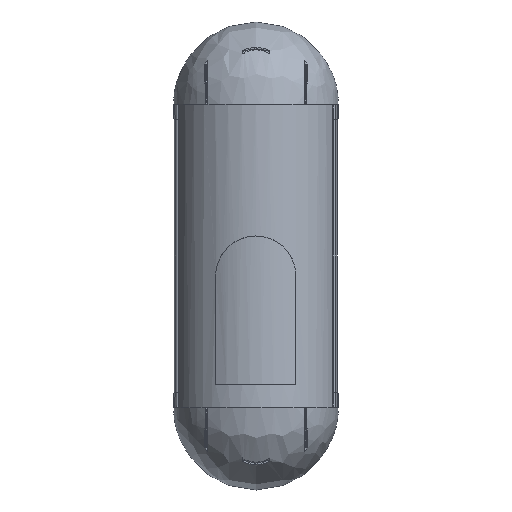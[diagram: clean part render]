
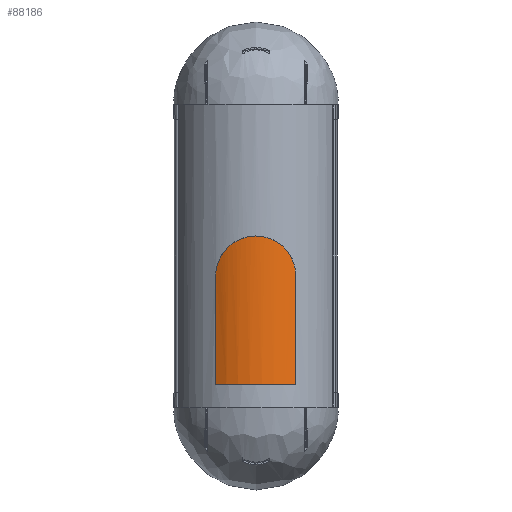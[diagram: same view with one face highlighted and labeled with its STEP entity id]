
A CAD part, front view. The second image highlights one B-rep face of the part: STEP entity #88186.
In plain terms, the highlighted cylindrical face has radius 33.953 mm (diameter 67.905 mm), a partial arc.
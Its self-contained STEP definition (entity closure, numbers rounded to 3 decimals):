
#98 = CARTESIAN_POINT ( 'NONE',  ( 13.767, -10.529, 1.942 ) ) ;
#1424 = CARTESIAN_POINT ( 'NONE',  ( 12.674, -10.994, 3.225 ) ) ;
#5175 = CARTESIAN_POINT ( 'NONE',  ( -17.599, -8.612, 69.625 ) ) ;
#5659 = CARTESIAN_POINT ( 'NONE',  ( -2.435, -13.403, 8.603 ) ) ;
#6501 = CARTESIAN_POINT ( 'NONE',  ( -17.599, -8.612, -8.75 ) ) ;
#6562 = EDGE_CURVE ( 'NONE', #46189, #81092, #17322, .T. ) ;
#6992 = CARTESIAN_POINT ( 'NONE',  ( -11.678, -11.441, 4.384 ) ) ;
#7288 = CARTESIAN_POINT ( 'NONE',  ( 16.258, -9.289, -2.503 ) ) ;
#7700 = DIRECTION ( 'NONE',  ( 0., 0., -1. ) ) ;
#8617 = CARTESIAN_POINT ( 'NONE',  ( 3.643, -13.275, 8.348 ) ) ;
#9197 = VECTOR ( 'NONE', #85427, 1000. ) ;
#12418 = CARTESIAN_POINT ( 'NONE',  ( -4.701, -13.168, 8.144 ) ) ;
#13273 = CARTESIAN_POINT ( 'NONE',  ( -17.481, -8.684, -6.411 ) ) ;
#14417 = LINE ( 'NONE', #5175, #77977 ) ;
#14889 = CARTESIAN_POINT ( 'NONE',  ( -0.083, 20.473, 69.625 ) ) ;
#14913 = CARTESIAN_POINT ( 'NONE',  ( 16.797, -8.987, -4.156 ) ) ;
#15025 = AXIS2_PLACEMENT_3D ( 'NONE', #41611, #21852, #15594 ) ;
#15341 = DIRECTION ( 'NONE',  ( 0., 0., -1. ) ) ;
#15365 = CARTESIAN_POINT ( 'NONE',  ( 13.051, -10.838, 2.81 ) ) ;
#15594 = DIRECTION ( 'NONE',  ( -1., 0., 0. ) ) ;
#15792 = CARTESIAN_POINT ( 'NONE',  ( 17.401, -8.632, -8.75 ) ) ;
#17322 = B_SPLINE_CURVE_WITH_KNOTS ( 'NONE', 3,
 ( #15792, #83554, #62904, #20757, #14913, #35946, #7288, #83113, #42266, #69678, #98, #15365, #1424, #27456, #56152, #49882, #70103, #43139, #70529, #22070, #49436, #22519, #27912, #21195, #8617, #82229, #77279, #41809 ),
 .UNSPECIFIED., .F., .F.,
 ( 4, 2, 2, 2, 2, 2, 2, 2, 2, 2, 2, 2, 2, 4 ),
 ( 0., 0.003, 0.005, 0.007, 0.01, 0.012, 0.014, 0.016, 0.017, 0.021, 0.023, 0.024, 0.024, 0.028 ),
 .UNSPECIFIED. ) ;
#19130 = CARTESIAN_POINT ( 'NONE',  ( -0.682, -13.479, 8.75 ) ) ;
#20757 = CARTESIAN_POINT ( 'NONE',  ( 16.94, -8.904, -4.716 ) ) ;
#20903 = CARTESIAN_POINT ( 'NONE',  ( -7.943, -12.575, 6.936 ) ) ;
#21195 = CARTESIAN_POINT ( 'NONE',  ( 3.926, -13.243, 8.283 ) ) ;
#21852 = DIRECTION ( 'NONE',  ( 0., 0., 1. ) ) ;
#22070 = CARTESIAN_POINT ( 'NONE',  ( 6.146, -12.907, 7.608 ) ) ;
#22519 = CARTESIAN_POINT ( 'NONE',  ( 4.772, -13.131, 8.061 ) ) ;
#27456 = CARTESIAN_POINT ( 'NONE',  ( 11.881, -11.304, 4.019 ) ) ;
#27912 = CARTESIAN_POINT ( 'NONE',  ( 4.49, -13.171, 8.14 ) ) ;
#29728 = CARTESIAN_POINT ( 'NONE',  ( -0.099, -13.479, 8.75 ) ) ;
#30730 = AXIS2_PLACEMENT_3D ( 'NONE', #14889, #15341, #70505 ) ;
#30911 = ORIENTED_EDGE ( 'NONE', *, *, #58153, .T. ) ;
#31474 = ORIENTED_EDGE ( 'NONE', *, *, #75667, .T. ) ;
#32988 = CARTESIAN_POINT ( 'NONE',  ( -16.988, -8.972, -4.131 ) ) ;
#34320 = CARTESIAN_POINT ( 'NONE',  ( -16.454, -9.273, -2.498 ) ) ;
#35946 = CARTESIAN_POINT ( 'NONE',  ( 16.456, -9.18, -3.046 ) ) ;
#40170 = CARTESIAN_POINT ( 'NONE',  ( -8.94, -12.318, 6.395 ) ) ;
#40479 = VERTEX_POINT ( 'NONE', #50457 ) ;
#41087 = CARTESIAN_POINT ( 'NONE',  ( -15.796, -9.628, -0.931 ) ) ;
#41611 = CARTESIAN_POINT ( 'NONE',  ( -0.083, 20.473, -56.25 ) ) ;
#41809 = CARTESIAN_POINT ( 'NONE',  ( -0.099, -13.479, 8.75 ) ) ;
#42266 = CARTESIAN_POINT ( 'NONE',  ( 15.057, -9.925, 0.072 ) ) ;
#43139 = CARTESIAN_POINT ( 'NONE',  ( 8.721, -12.333, 6.407 ) ) ;
#46189 = VERTEX_POINT ( 'NONE', #49921 ) ;
#46480 = CARTESIAN_POINT ( 'NONE',  ( -15.26, -9.906, 0.064 ) ) ;
#47806 = CARTESIAN_POINT ( 'NONE',  ( -0.099, -13.479, 8.75 ) ) ;
#49436 = CARTESIAN_POINT ( 'NONE',  ( 5.606, -13.004, 7.804 ) ) ;
#49882 = CARTESIAN_POINT ( 'NONE',  ( 10.594, -11.76, 5.115 ) ) ;
#49921 = CARTESIAN_POINT ( 'NONE',  ( 17.401, -8.632, -8.75 ) ) ;
#50280 = CYLINDRICAL_SURFACE ( 'NONE', #30730, 33.953 ) ;
#50457 = CARTESIAN_POINT ( 'NONE',  ( 17.401, -8.632, -56.25 ) ) ;
#53215 = CARTESIAN_POINT ( 'NONE',  ( -12.093, -11.287, 4.005 ) ) ;
#56152 = CARTESIAN_POINT ( 'NONE',  ( 11.466, -11.458, 4.396 ) ) ;
#58153 = EDGE_CURVE ( 'NONE', #81092, #76546, #83073, .T. ) ;
#59961 = CARTESIAN_POINT ( 'NONE',  ( -4.142, -13.241, 8.286 ) ) ;
#60389 = CARTESIAN_POINT ( 'NONE',  ( -10.349, -11.894, 5.446 ) ) ;
#60843 = CARTESIAN_POINT ( 'NONE',  ( -13.992, -10.507, 1.951 ) ) ;
#61131 = ORIENTED_EDGE ( 'NONE', *, *, #6562, .T. ) ;
#61285 = CARTESIAN_POINT ( 'NONE',  ( -3.009, -13.358, 8.516 ) ) ;
#62457 = FACE_OUTER_BOUND ( 'NONE', #87538, .T. ) ;
#62904 = CARTESIAN_POINT ( 'NONE',  ( 17.283, -8.703, -6.415 ) ) ;
#67154 = CARTESIAN_POINT ( 'NONE',  ( -13.28, -10.821, 2.816 ) ) ;
#68478 = CARTESIAN_POINT ( 'NONE',  ( -5.804, -12.998, 7.804 ) ) ;
#69678 = CARTESIAN_POINT ( 'NONE',  ( 14.107, -10.374, 1.486 ) ) ;
#70103 = CARTESIAN_POINT ( 'NONE',  ( 10.135, -11.909, 5.457 ) ) ;
#70505 = DIRECTION ( 'NONE',  ( -1., 0., 0. ) ) ;
#70529 = CARTESIAN_POINT ( 'NONE',  ( 7.725, -12.587, 6.945 ) ) ;
#71891 = VERTEX_POINT ( 'NONE', #80545 ) ;
#72095 = ORIENTED_EDGE ( 'NONE', *, *, #79353, .T. ) ;
#72399 = LINE ( 'NONE', #72841, #9197 ) ;
#72841 = CARTESIAN_POINT ( 'NONE',  ( 17.401, -8.632, 69.625 ) ) ;
#73893 = CARTESIAN_POINT ( 'NONE',  ( -17.599, -8.612, -7.571 ) ) ;
#74326 = CARTESIAN_POINT ( 'NONE',  ( -10.806, -11.745, 5.104 ) ) ;
#74751 = CARTESIAN_POINT ( 'NONE',  ( -17.599, -8.612, -8.75 ) ) ;
#75206 = CARTESIAN_POINT ( 'NONE',  ( -16.649, -9.164, -3.033 ) ) ;
#75667 = EDGE_CURVE ( 'NONE', #40479, #46189, #72399, .T. ) ;
#76546 = VERTEX_POINT ( 'NONE', #6501 ) ;
#77279 = CARTESIAN_POINT ( 'NONE',  ( 1.07, -13.48, 8.75 ) ) ;
#77977 = VECTOR ( 'NONE', #7700, 1000. ) ;
#79353 = EDGE_CURVE ( 'NONE', #71891, #40479, #79535, .T. ) ;
#79535 = CIRCLE ( 'NONE', #15025, 33.953 ) ;
#80545 = CARTESIAN_POINT ( 'NONE',  ( -17.599, -8.612, -56.25 ) ) ;
#80597 = CARTESIAN_POINT ( 'NONE',  ( -1.273, -13.463, 8.72 ) ) ;
#81092 = VERTEX_POINT ( 'NONE', #29728 ) ;
#81492 = CARTESIAN_POINT ( 'NONE',  ( -17.133, -8.888, -4.697 ) ) ;
#82229 = CARTESIAN_POINT ( 'NONE',  ( 2.222, -13.42, 8.634 ) ) ;
#83073 = B_SPLINE_CURVE_WITH_KNOTS ( 'NONE', 3,
 ( #47806, #19130, #80597, #5659, #61285, #59961, #12418, #68478, #87359, #20903, #40170, #60389, #74326, #6992, #53215, #67154, #60843, #46480, #41087, #34320, #75206, #32988, #81492, #13273, #73893, #74751 ),
 .UNSPECIFIED., .F., .F.,
 ( 4, 2, 2, 2, 2, 2, 2, 2, 2, 2, 2, 2, 4 ),
 ( 0.028, 0.03, 0.031, 0.033, 0.035, 0.038, 0.04, 0.042, 0.045, 0.049, 0.05, 0.052, 0.056 ),
 .UNSPECIFIED. ) ;
#83113 = CARTESIAN_POINT ( 'NONE',  ( 15.595, -9.647, -0.923 ) ) ;
#83554 = CARTESIAN_POINT ( 'NONE',  ( 17.401, -8.632, -7.57 ) ) ;
#85427 = DIRECTION ( 'NONE',  ( 0., 0., 1. ) ) ;
#87019 = ORIENTED_EDGE ( 'NONE', *, *, #87401, .T. ) ;
#87359 = CARTESIAN_POINT ( 'NONE',  ( -6.352, -12.9, 7.605 ) ) ;
#87401 = EDGE_CURVE ( 'NONE', #76546, #71891, #14417, .T. ) ;
#87538 = EDGE_LOOP ( 'NONE', ( #72095, #31474, #61131, #30911, #87019 ) ) ;
#88186 = ADVANCED_FACE ( 'NONE', ( #62457 ), #50280, .T. ) ;
